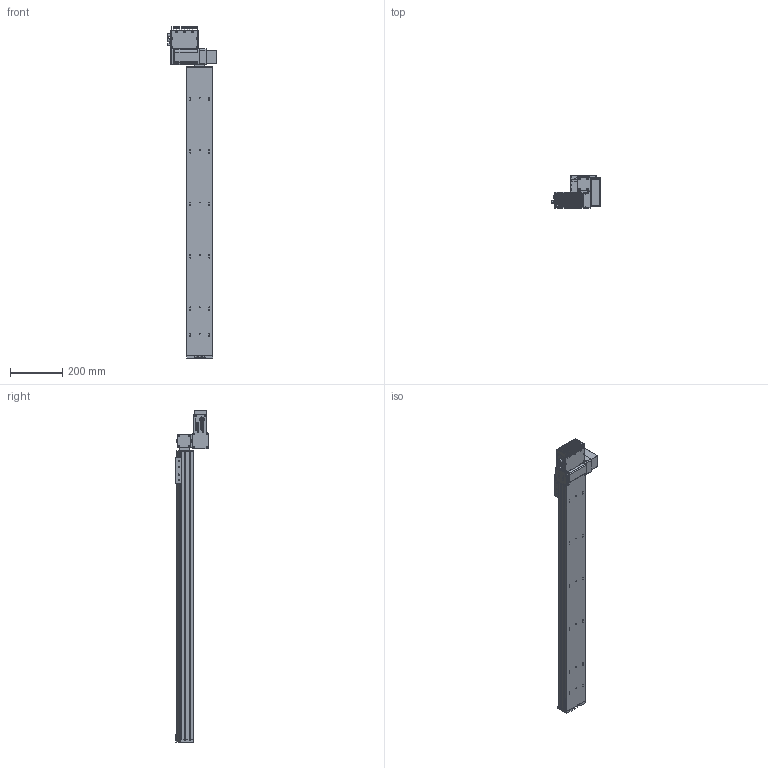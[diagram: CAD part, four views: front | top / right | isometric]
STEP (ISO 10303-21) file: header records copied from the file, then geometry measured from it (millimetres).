
FILE_DESCRIPTION (( 'STEP AP203' ), '1' );
FILE_NAME ('S10 TBH LH S1100.STEP', '2012-06-19T07:32:10', ( 'Conseil Régional Haute-Normandie' ), ( 'Conseil Régional Haute-Normandie' ), 'SwSTEP 2.0', 'SolidWorks 2010', '' );
FILE_SCHEMA (( 'CONFIG_CONTROL_DESIGN' ));
Length unit declared in the file: millimetre
Products named in the file (27): Copie de plaque de bout s10_Default^S10 TBH LH S1100; cache t皻e_Default; Assem1_7; T_X2_00F4_X0_le contre le moteur_5; BU41 Carte Alimentation P05_3; T_X2_00F4_X0_le fond_3; Connecteur rond D10 3cts_5; T_X2_00F4_X0_le Arri_X2_00E8_X0_re_5; T_X2_00F4_X0_le lat_X2_00E9_X0_rale_5; Vis TF 3 torkx_1_1; S10 TBH LH S1100; embout; palette tbn; vis M5 L5_Default; cache t皻e axe_Default; renvoi LH_Default; Plaque racord_Default; Colonnette_3; BU45 Carte d''axe A11_5; Moteur 60BLDC90A_3; Couvercle_3; Connecteur rond D12 4cts_5; Sub D 9cts 90_X2_00B_X0__3; Radiateur profil_X2_00E9_X0_ 100x25_3; Colonnette ronde_3; axe1100_Default; axe 1100
Assembly tree (53 placements, depth 3):
  S10 TBH LH S1100
    vis M5 L5_Default  x4
    Plaque racord_Default
    cache t皻e_Default  x2
    Copie de plaque de bout s10_Default^S10 TBH LH S1100
    cache t皻e axe_Default
    renvoi LH_Default
    palette tbn
    axe1100_Default
      axe 1100
    embout
    Assem1_7
      Sub D 9cts 90_X2_00B_X0__3
      Vis TF 3 torkx_1_1  x21
      BU41 Carte Alimentation P05_3
      Connecteur rond D10 3cts_5  x2
      T_X2_00F4_X0_le lat_X2_00E9_X0_rale_5  x2
      Connecteur rond D12 4cts_5
      Radiateur profil_X2_00E9_X0_ 100x25_3
      Couvercle_3
      Moteur 60BLDC90A_3
      Colonnette_3  x2
      T_X2_00F4_X0_le fond_3
      T_X2_00F4_X0_le Arri_X2_00E8_X0_re_5
      Colonnette ronde_3
      BU45 Carte d''axe A11_5
      T_X2_00F4_X0_le contre le moteur_5
Bounding box: 186.1 x 124.75 x 1266.5 mm (x, y, z)
Volume: 6589837.2 mm3; surface area: 852518.5 mm2
Topology: 51 solids, 51 shells, 2055 faces, 5194 edges, 3367 vertices
Faces by surface type: plane 936, cylinder 934, cone 162, bspline 20, torus 3
Entity records: 45161 total; most frequent: CARTESIAN_POINT 8158, DIRECTION 7325, ORIENTED_EDGE 6668, EDGE_CURVE 3334, AXIS2_PLACEMENT_3D 2723, VERTEX_POINT 2181, LINE 1879, VECTOR 1879
